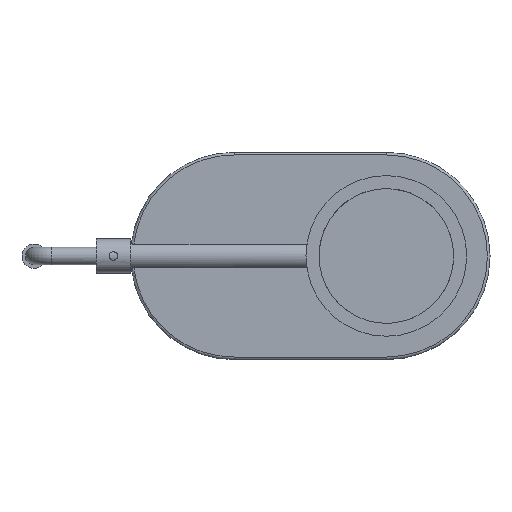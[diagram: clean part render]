
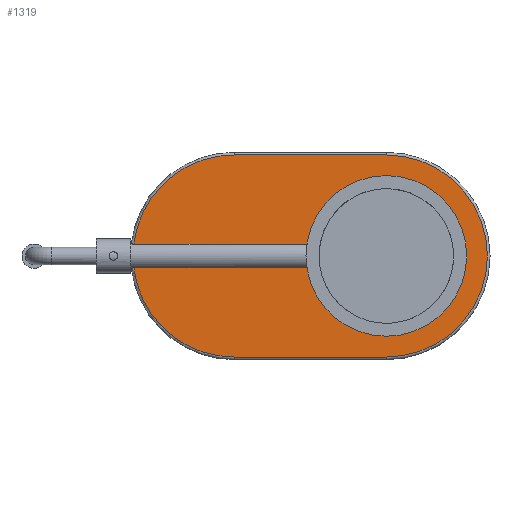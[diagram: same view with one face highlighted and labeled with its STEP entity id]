
A CAD part, top view. The second image highlights one B-rep face of the part: STEP entity #1319.
In plain terms, the highlighted planar face has unit normal (0, 0, 1).
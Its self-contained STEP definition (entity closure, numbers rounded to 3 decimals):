
#441=CARTESIAN_POINT('',(0.,-58.5,3.));
#442=VERTEX_POINT('',#441);
#450=CARTESIAN_POINT('',(-88.05,-58.5,3.));
#451=VERTEX_POINT('',#450);
#452=CARTESIAN_POINT('',(0.,-58.5,3.));
#453=DIRECTION('',(-1.0,0.0,0.0));
#454=VECTOR('',#453,88.05);
#455=LINE('',#452,#454);
#456=EDGE_CURVE('',#442,#451,#455,.T.);
#474=CARTESIAN_POINT('',(0.,58.5,3.));
#475=VERTEX_POINT('',#474);
#483=CARTESIAN_POINT('',(0.0,0.0,3.));
#484=DIRECTION('',(0.0,0.0,-1.0));
#485=DIRECTION('',(1.0,0.0,0.0));
#486=AXIS2_PLACEMENT_3D('',#483,#484,#485);
#487=CIRCLE('',#486,58.5);
#488=EDGE_CURVE('',#475,#442,#487,.T.);
#500=CARTESIAN_POINT('',(-146.145,-6.874,3.));
#501=VERTEX_POINT('',#500);
#519=CARTESIAN_POINT('',(-88.05,0.,3.));
#520=DIRECTION('',(0.0,0.0,-1.));
#521=DIRECTION('',(-0.665,-0.747,0.0));
#522=AXIS2_PLACEMENT_3D('',#519,#520,#521);
#523=CIRCLE('',#522,58.5);
#524=EDGE_CURVE('',#451,#501,#523,.T.);
#534=CARTESIAN_POINT('',(-88.05,58.5,3.));
#535=VERTEX_POINT('',#534);
#543=CARTESIAN_POINT('',(-88.05,58.5,3.));
#544=DIRECTION('',(1.0,0.0,0.0));
#545=VECTOR('',#544,88.05);
#546=LINE('',#543,#545);
#547=EDGE_CURVE('',#535,#475,#546,.T.);
#559=CARTESIAN_POINT('',(-146.145,6.874,3.));
#560=VERTEX_POINT('',#559);
#576=CARTESIAN_POINT('',(-88.05,0.,3.));
#577=DIRECTION('',(0.0,0.0,-1.0));
#578=DIRECTION('',(-0.665,0.747,0.0));
#579=AXIS2_PLACEMENT_3D('',#576,#577,#578);
#580=CIRCLE('',#579,58.5);
#581=EDGE_CURVE('',#560,#535,#580,.T.);
#1240=CARTESIAN_POINT('',(-39.912,-6.874,3.0));
#1241=VERTEX_POINT('',#1240);
#1242=CARTESIAN_POINT('',(-39.912,-6.874,3.));
#1243=DIRECTION('',(-1.0,0.0,0.0));
#1244=VECTOR('',#1243,106.232);
#1245=LINE('',#1242,#1244);
#1246=EDGE_CURVE('',#1241,#501,#1245,.T.);
#1248=CARTESIAN_POINT('',(-39.912,6.874,3.0));
#1249=VERTEX_POINT('',#1248);
#1267=CARTESIAN_POINT('',(-146.145,6.874,3.));
#1268=DIRECTION('',(1.0,0.0,0.0));
#1269=VECTOR('',#1268,106.232);
#1270=LINE('',#1267,#1269);
#1271=EDGE_CURVE('',#560,#1249,#1270,.T.);
#1298=CARTESIAN_POINT('',(-44.025,0.,3.));
#1299=DIRECTION('',(0.0,0.0,1.0));
#1300=DIRECTION('',(1.0,0.0,0.0));
#1301=AXIS2_PLACEMENT_3D('',#1298,#1299,#1300);
#1302=PLANE('',#1301);
#1303=ORIENTED_EDGE('',*,*,#581,.F.);
#1304=ORIENTED_EDGE('',*,*,#1271,.T.);
#1305=CARTESIAN_POINT('',(0.0,0.0,3.));
#1306=DIRECTION('',(0.0,0.0,1.0));
#1307=DIRECTION('',(-1.0,0.0,0.0));
#1308=AXIS2_PLACEMENT_3D('',#1305,#1306,#1307);
#1309=CIRCLE('',#1308,40.5);
#1310=EDGE_CURVE('',#1241,#1249,#1309,.T.);
#1311=ORIENTED_EDGE('',*,*,#1310,.F.);
#1312=ORIENTED_EDGE('',*,*,#1246,.T.);
#1313=ORIENTED_EDGE('',*,*,#524,.F.);
#1314=ORIENTED_EDGE('',*,*,#456,.F.);
#1315=ORIENTED_EDGE('',*,*,#488,.F.);
#1316=ORIENTED_EDGE('',*,*,#547,.F.);
#1317=EDGE_LOOP('',(#1303,#1304,#1311,#1312,#1313,#1314,#1315,#1316));
#1318=FACE_OUTER_BOUND('',#1317,.T.);
#1319=ADVANCED_FACE('',(#1318),#1302,.T.);
